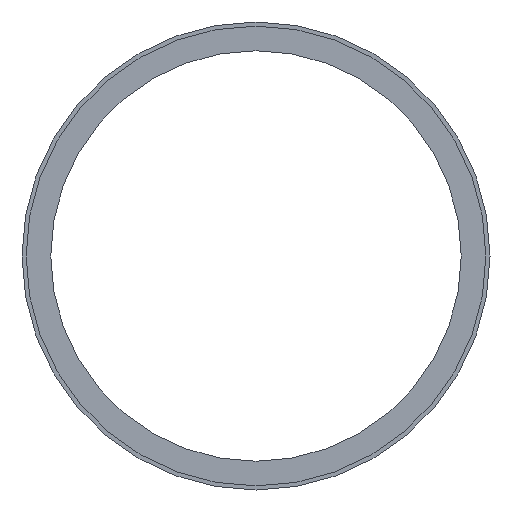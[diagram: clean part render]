
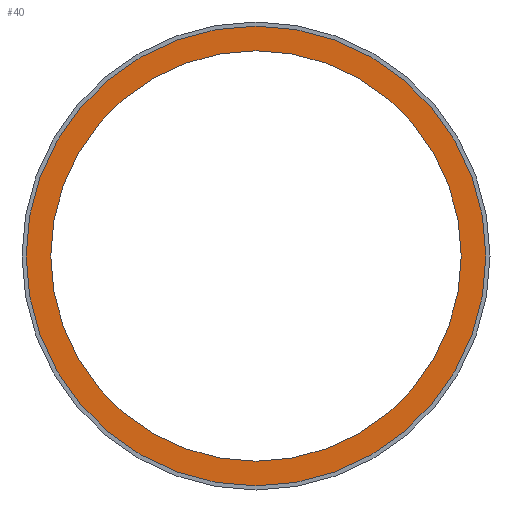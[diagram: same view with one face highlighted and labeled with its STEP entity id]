
A CAD part, front view. The second image highlights one B-rep face of the part: STEP entity #40.
In plain terms, the highlighted planar face has unit normal (0, -1, 0).
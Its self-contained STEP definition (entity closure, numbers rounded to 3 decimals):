
#40 = ADVANCED_FACE( '', ( #81, #82 ), #83, .F. );
#81 = FACE_OUTER_BOUND( '', #120, .T. );
#82 = FACE_BOUND( '', #121, .T. );
#83 = PLANE( '', #122 );
#120 = EDGE_LOOP( '', ( #161 ) );
#121 = EDGE_LOOP( '', ( #162 ) );
#122 = AXIS2_PLACEMENT_3D( '', #163, #164, #165 );
#161 = ORIENTED_EDGE( '', *, *, #191, .T. );
#162 = ORIENTED_EDGE( '', *, *, #186, .F. );
#163 = CARTESIAN_POINT( '', ( 0., 0., 28.5 ) );
#164 = DIRECTION( '', ( 0., 1., 0. ) );
#165 = DIRECTION( '', ( 0., 0., 1. ) );
#186 = EDGE_CURVE( '', #203, #203, #204, .T. );
#191 = EDGE_CURVE( '', #211, #211, #212, .T. );
#203 = VERTEX_POINT( '', #227 );
#204 = CIRCLE( '', #228, 25. );
#211 = VERTEX_POINT( '', #235 );
#212 = CIRCLE( '', #236, 28. );
#227 = CARTESIAN_POINT( '', ( 0., 0., -25. ) );
#228 = AXIS2_PLACEMENT_3D( '', #251, #252, #253 );
#235 = CARTESIAN_POINT( '', ( 0., 0., -28. ) );
#236 = AXIS2_PLACEMENT_3D( '', #260, #261, #262 );
#251 = CARTESIAN_POINT( '', ( 0., 0., 0. ) );
#252 = DIRECTION( '', ( 0., -1., 0. ) );
#253 = DIRECTION( '', ( 0., 0., -1. ) );
#260 = CARTESIAN_POINT( '', ( 0., 0., 0. ) );
#261 = DIRECTION( '', ( 0., -1., 0. ) );
#262 = DIRECTION( '', ( 0., 0., -1. ) );
